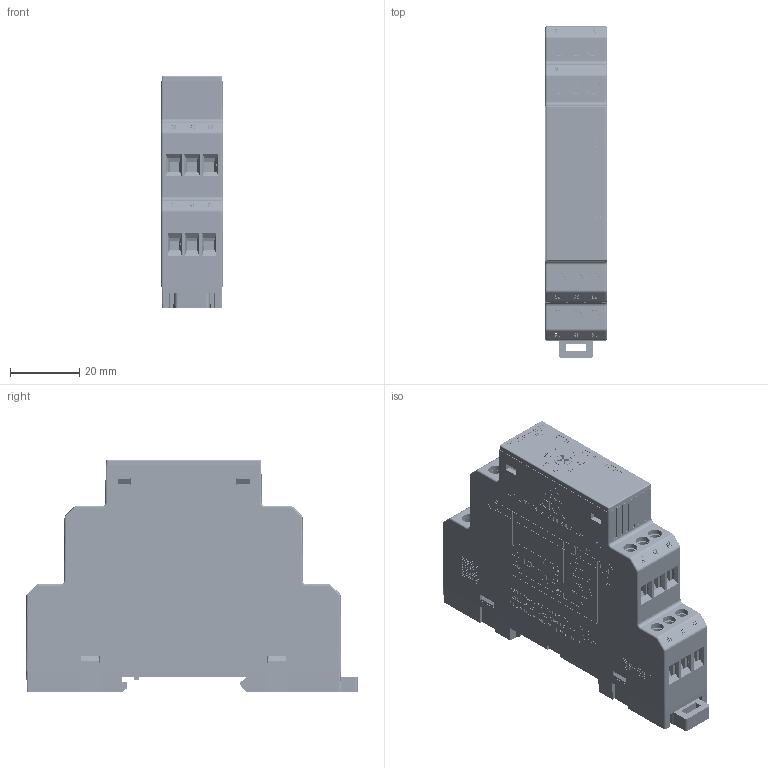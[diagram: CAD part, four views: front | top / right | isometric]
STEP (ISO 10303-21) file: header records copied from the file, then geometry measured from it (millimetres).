
FILE_DESCRIPTION(('STEP AP203'), '1');
FILE_NAME('ICR20', '2026-04-28T15:12:13', (''), (''), 'ASCON STEP Converter 1.6', 'ASCON Math Kernel', '');
FILE_SCHEMA(('CONFIG_CONTROL_DESIGN'));
Length unit declared in the file: millimetre
Bounding box: 17.77 x 95.59 x 66.73 mm (x, y, z)
Volume: 40203.2 mm3; surface area: 56972.6 mm2
Topology: 45 solids, 50 shells, 18539 faces, 51509 edges, 33748 vertices
Faces by surface type: plane 14414, bspline 1948, cylinder 1747, sphere 223, torus 96, extrusion 57, cone 48, revolution 6
Full cylindrical faces by diameter (mm): 0.5 x14, 0.55 x4, 0.559 x1, 0.6 x12, 0.8 x3, 0.85 x4, 0.877 x2, 0.9 x8, 1 x11, 1.1 x14, 1.3 x8, 1.4 x12, 1.5 x11, 2 x4, 2.2 x4, 2.3 x2, 2.6 x12, 2.85 x12, 3.1 x1, 3.2 x4, 3.4 x1, 3.8 x17, 4 x4, 4.9 x1, 4.986 x1, 5.1 x1, 5.2 x4, 5.4 x2, 6.5 x2, 6.8 x2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
Entity records: 855924 total; most frequent: CARTESIAN_POINT 250238, ORIENTED_EDGE 102123, DIRECTION 81169, EDGE_CURVE 51064, VECTOR 41579, LINE 41522, VERTEX_POINT 33745, EDGE_LOOP 20015
